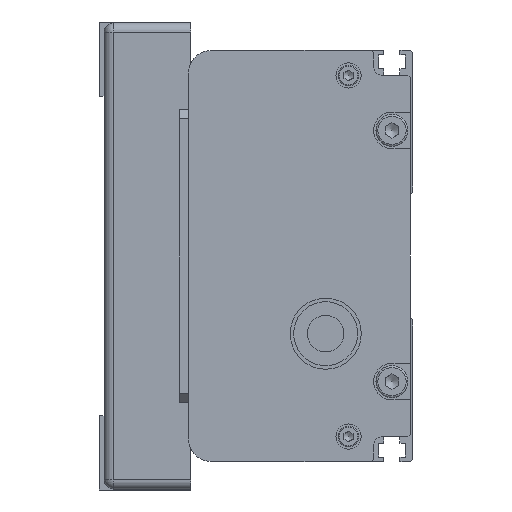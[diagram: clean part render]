
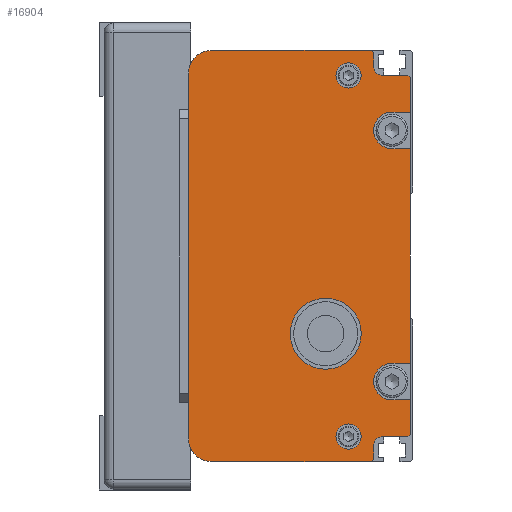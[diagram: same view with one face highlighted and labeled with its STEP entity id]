
A CAD part, left-side view. The second image highlights one B-rep face of the part: STEP entity #16904.
In plain terms, the highlighted planar face has unit normal (-1, 0, 0) as drawn and (0, 0, -1) by its records, which use the part's own axes.
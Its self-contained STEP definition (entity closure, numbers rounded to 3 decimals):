
#1072=FACE_BOUND('',#2462,.T.);
#1073=FACE_BOUND('',#2463,.T.);
#1074=FACE_BOUND('',#2464,.T.);
#1396=FACE_OUTER_BOUND('',#2461,.T.);
#2461=EDGE_LOOP('',(#11733,#11734,#11735,#11736,#11737,#11738,#11739,#11740,
#11741,#11742,#11743,#11744,#11745,#11746,#11747,#11748,#11749,#11750,#11751,
#11752,#11753,#11754,#11755,#11756));
#2462=EDGE_LOOP('',(#11757));
#2463=EDGE_LOOP('',(#11758));
#2464=EDGE_LOOP('',(#11759));
#3747=LINE('',#24477,#5245);
#3773=LINE('',#24544,#5271);
#3775=LINE('',#24549,#5273);
#3776=LINE('',#24551,#5274);
#3777=LINE('',#24554,#5275);
#3778=LINE('',#24556,#5276);
#3779=LINE('',#24558,#5277);
#3780=LINE('',#24562,#5278);
#3781=LINE('',#24564,#5279);
#3782=LINE('',#24566,#5280);
#3783=LINE('',#24570,#5281);
#3784=LINE('',#24572,#5282);
#3785=LINE('',#24574,#5283);
#3786=LINE('',#24576,#5284);
#3787=LINE('',#24580,#5285);
#3788=LINE('',#24582,#5286);
#3789=LINE('',#24583,#5287);
#3790=LINE('',#24584,#5288);
#5245=VECTOR('',#19880,80.);
#5271=VECTOR('',#19932,0.707);
#5273=VECTOR('',#19936,0.707);
#5274=VECTOR('',#19937,3.);
#5275=VECTOR('',#19940,5.5);
#5276=VECTOR('',#19941,7.5);
#5277=VECTOR('',#19942,4.);
#5278=VECTOR('',#19945,4.);
#5279=VECTOR('',#19946,47.);
#5280=VECTOR('',#19947,4.);
#5281=VECTOR('',#19950,4.);
#5282=VECTOR('',#19951,7.5);
#5283=VECTOR('',#19952,0.707);
#5284=VECTOR('',#19953,5.5);
#5285=VECTOR('',#19956,3.);
#5286=VECTOR('',#19957,0.707);
#5287=VECTOR('',#19958,35.);
#5288=VECTOR('',#19959,35.);
#6626=CIRCLE('',#18050,5.);
#6629=CIRCLE('',#18057,5.);
#6631=CIRCLE('',#18063,2.);
#6632=CIRCLE('',#18064,4.);
#6633=CIRCLE('',#18065,4.);
#6634=CIRCLE('',#18066,2.);
#6635=CIRCLE('',#18067,7.769);
#6636=CIRCLE('',#18068,2.75);
#6637=CIRCLE('',#18069,2.75);
#7225=VERTEX_POINT('',#24474);
#7226=VERTEX_POINT('',#24476);
#7227=VERTEX_POINT('',#24480);
#7230=VERTEX_POINT('',#24491);
#7253=VERTEX_POINT('',#24541);
#7254=VERTEX_POINT('',#24543);
#7255=VERTEX_POINT('',#24547);
#7256=VERTEX_POINT('',#24548);
#7257=VERTEX_POINT('',#24550);
#7258=VERTEX_POINT('',#24552);
#7259=VERTEX_POINT('',#24555);
#7260=VERTEX_POINT('',#24557);
#7261=VERTEX_POINT('',#24559);
#7262=VERTEX_POINT('',#24561);
#7263=VERTEX_POINT('',#24563);
#7264=VERTEX_POINT('',#24565);
#7265=VERTEX_POINT('',#24567);
#7266=VERTEX_POINT('',#24569);
#7267=VERTEX_POINT('',#24571);
#7268=VERTEX_POINT('',#24573);
#7269=VERTEX_POINT('',#24575);
#7270=VERTEX_POINT('',#24577);
#7271=VERTEX_POINT('',#24579);
#7272=VERTEX_POINT('',#24581);
#7273=VERTEX_POINT('',#24585);
#7274=VERTEX_POINT('',#24587);
#7275=VERTEX_POINT('',#24589);
#9003=EDGE_CURVE('',#7225,#7226,#3747,.T.);
#9005=EDGE_CURVE('',#7226,#7227,#6626,.T.);
#9010=EDGE_CURVE('',#7230,#7225,#6629,.T.);
#9034=EDGE_CURVE('',#7253,#7254,#3773,.T.);
#9036=EDGE_CURVE('',#7255,#7256,#3775,.T.);
#9037=EDGE_CURVE('',#7255,#7257,#3776,.T.);
#9038=EDGE_CURVE('',#7257,#7258,#6631,.T.);
#9039=EDGE_CURVE('',#7258,#7254,#3777,.T.);
#9040=EDGE_CURVE('',#7259,#7253,#3778,.T.);
#9041=EDGE_CURVE('',#7259,#7260,#3779,.T.);
#9042=EDGE_CURVE('',#7260,#7261,#6632,.T.);
#9043=EDGE_CURVE('',#7261,#7262,#3780,.T.);
#9044=EDGE_CURVE('',#7263,#7262,#3781,.T.);
#9045=EDGE_CURVE('',#7263,#7264,#3782,.T.);
#9046=EDGE_CURVE('',#7264,#7265,#6633,.T.);
#9047=EDGE_CURVE('',#7265,#7266,#3783,.T.);
#9048=EDGE_CURVE('',#7267,#7266,#3784,.T.);
#9049=EDGE_CURVE('',#7268,#7267,#3785,.T.);
#9050=EDGE_CURVE('',#7268,#7269,#3786,.T.);
#9051=EDGE_CURVE('',#7269,#7270,#6634,.T.);
#9052=EDGE_CURVE('',#7270,#7271,#3787,.T.);
#9053=EDGE_CURVE('',#7272,#7271,#3788,.T.);
#9054=EDGE_CURVE('',#7227,#7272,#3789,.T.);
#9055=EDGE_CURVE('',#7256,#7230,#3790,.T.);
#9056=EDGE_CURVE('',#7273,#7273,#6635,.T.);
#9057=EDGE_CURVE('',#7274,#7274,#6636,.T.);
#9058=EDGE_CURVE('',#7275,#7275,#6637,.T.);
#11733=ORIENTED_EDGE('',*,*,#9036,.F.);
#11734=ORIENTED_EDGE('',*,*,#9037,.T.);
#11735=ORIENTED_EDGE('',*,*,#9038,.T.);
#11736=ORIENTED_EDGE('',*,*,#9039,.T.);
#11737=ORIENTED_EDGE('',*,*,#9034,.F.);
#11738=ORIENTED_EDGE('',*,*,#9040,.F.);
#11739=ORIENTED_EDGE('',*,*,#9041,.T.);
#11740=ORIENTED_EDGE('',*,*,#9042,.T.);
#11741=ORIENTED_EDGE('',*,*,#9043,.T.);
#11742=ORIENTED_EDGE('',*,*,#9044,.F.);
#11743=ORIENTED_EDGE('',*,*,#9045,.T.);
#11744=ORIENTED_EDGE('',*,*,#9046,.T.);
#11745=ORIENTED_EDGE('',*,*,#9047,.T.);
#11746=ORIENTED_EDGE('',*,*,#9048,.F.);
#11747=ORIENTED_EDGE('',*,*,#9049,.F.);
#11748=ORIENTED_EDGE('',*,*,#9050,.T.);
#11749=ORIENTED_EDGE('',*,*,#9051,.T.);
#11750=ORIENTED_EDGE('',*,*,#9052,.T.);
#11751=ORIENTED_EDGE('',*,*,#9053,.F.);
#11752=ORIENTED_EDGE('',*,*,#9054,.F.);
#11753=ORIENTED_EDGE('',*,*,#9005,.F.);
#11754=ORIENTED_EDGE('',*,*,#9003,.F.);
#11755=ORIENTED_EDGE('',*,*,#9010,.F.);
#11756=ORIENTED_EDGE('',*,*,#9055,.F.);
#11757=ORIENTED_EDGE('',*,*,#9056,.T.);
#11758=ORIENTED_EDGE('',*,*,#9057,.T.);
#11759=ORIENTED_EDGE('',*,*,#9058,.T.);
#16296=PLANE('',#18062);
#16904=ADVANCED_FACE('',(#1396,#1072,#1073,#1074),#16296,.F.);
#18050=AXIS2_PLACEMENT_3D('',#24481,#19884,#19885);
#18057=AXIS2_PLACEMENT_3D('',#24493,#19900,#19901);
#18062=AXIS2_PLACEMENT_3D('',#24546,#19934,#19935);
#18063=AXIS2_PLACEMENT_3D('',#24553,#19938,#19939);
#18064=AXIS2_PLACEMENT_3D('',#24560,#19943,#19944);
#18065=AXIS2_PLACEMENT_3D('',#24568,#19948,#19949);
#18066=AXIS2_PLACEMENT_3D('',#24578,#19954,#19955);
#18067=AXIS2_PLACEMENT_3D('',#24586,#19960,#19961);
#18068=AXIS2_PLACEMENT_3D('',#24588,#19962,#19963);
#18069=AXIS2_PLACEMENT_3D('',#24590,#19964,#19965);
#19880=DIRECTION('',(-1.,0.,0.));
#19884=DIRECTION('center_axis',(0.,0.,1.));
#19885=DIRECTION('ref_axis',(0.,1.,0.));
#19900=DIRECTION('center_axis',(0.,0.,1.));
#19901=DIRECTION('ref_axis',(1.,0.,0.));
#19932=DIRECTION('',(0.707,0.707,0.));
#19934=DIRECTION('center_axis',(0.,0.,1.));
#19935=DIRECTION('ref_axis',(1.,0.,0.));
#19936=DIRECTION('',(0.707,0.707,0.));
#19937=DIRECTION('',(-1.,0.,0.));
#19938=DIRECTION('center_axis',(0.,0.,1.));
#19939=DIRECTION('ref_axis',(0.,1.,0.));
#19940=DIRECTION('',(0.,-1.,0.));
#19941=DIRECTION('',(1.,0.,0.));
#19942=DIRECTION('',(0.,1.,0.));
#19943=DIRECTION('center_axis',(0.,0.,1.));
#19944=DIRECTION('ref_axis',(-1.,0.,0.));
#19945=DIRECTION('',(0.,-1.,0.));
#19946=DIRECTION('',(1.,0.,0.));
#19947=DIRECTION('',(0.,1.,0.));
#19948=DIRECTION('center_axis',(0.,0.,1.));
#19949=DIRECTION('ref_axis',(-1.,0.,0.));
#19950=DIRECTION('',(0.,-1.,0.));
#19951=DIRECTION('',(1.,0.,0.));
#19952=DIRECTION('',(0.707,-0.707,0.));
#19953=DIRECTION('',(0.,1.,0.));
#19954=DIRECTION('center_axis',(0.,0.,1.));
#19955=DIRECTION('ref_axis',(-1.,0.,0.));
#19956=DIRECTION('',(-1.,0.,0.));
#19957=DIRECTION('',(0.707,-0.707,0.));
#19958=DIRECTION('',(0.,-1.,0.));
#19959=DIRECTION('',(0.,1.,0.));
#19960=DIRECTION('center_axis',(0.,0.,1.));
#19961=DIRECTION('ref_axis',(0.766,-0.643,0.));
#19962=DIRECTION('center_axis',(0.,0.,1.));
#19963=DIRECTION('ref_axis',(-1.,0.,0.));
#19964=DIRECTION('center_axis',(0.,0.,1.));
#19965=DIRECTION('ref_axis',(-1.,0.,0.));
#24474=CARTESIAN_POINT('',(37.988,51.846,-347.249));
#24476=CARTESIAN_POINT('',(-42.012,51.846,-347.249));
#24477=CARTESIAN_POINT('',(37.988,51.846,-347.249));
#24480=CARTESIAN_POINT('',(-47.012,46.846,-347.249));
#24481=CARTESIAN_POINT('Origin',(-42.012,46.846,-347.249));
#24491=CARTESIAN_POINT('',(42.988,46.846,-347.249));
#24493=CARTESIAN_POINT('Origin',(37.988,46.846,-347.249));
#24541=CARTESIAN_POINT('',(36.988,3.346,-347.249));
#24543=CARTESIAN_POINT('',(37.488,3.846,-347.249));
#24544=CARTESIAN_POINT('',(36.988,3.346,-347.249));
#24546=CARTESIAN_POINT('Origin',(-2.012,27.249,-347.249));
#24547=CARTESIAN_POINT('',(42.488,11.346,-347.249));
#24548=CARTESIAN_POINT('',(42.988,11.846,-347.249));
#24549=CARTESIAN_POINT('',(42.488,11.346,-347.249));
#24550=CARTESIAN_POINT('',(39.488,11.346,-347.249));
#24551=CARTESIAN_POINT('',(42.488,11.346,-347.249));
#24552=CARTESIAN_POINT('',(37.488,9.346,-347.249));
#24553=CARTESIAN_POINT('Origin',(39.488,9.346,-347.249));
#24554=CARTESIAN_POINT('',(37.488,9.346,-347.249));
#24555=CARTESIAN_POINT('',(29.488,3.346,-347.249));
#24556=CARTESIAN_POINT('',(29.488,3.346,-347.249));
#24557=CARTESIAN_POINT('',(29.488,7.346,-347.249));
#24558=CARTESIAN_POINT('',(29.488,3.346,-347.249));
#24559=CARTESIAN_POINT('',(21.488,7.346,-347.249));
#24560=CARTESIAN_POINT('Origin',(25.488,7.346,-347.249));
#24561=CARTESIAN_POINT('',(21.488,3.346,-347.249));
#24562=CARTESIAN_POINT('',(21.488,7.346,-347.249));
#24563=CARTESIAN_POINT('',(-25.512,3.346,-347.249));
#24564=CARTESIAN_POINT('',(-25.512,3.346,-347.249));
#24565=CARTESIAN_POINT('',(-25.512,7.346,-347.249));
#24566=CARTESIAN_POINT('',(-25.512,3.346,-347.249));
#24567=CARTESIAN_POINT('',(-33.512,7.346,-347.249));
#24568=CARTESIAN_POINT('Origin',(-29.512,7.346,-347.249));
#24569=CARTESIAN_POINT('',(-33.512,3.346,-347.249));
#24570=CARTESIAN_POINT('',(-33.512,7.346,-347.249));
#24571=CARTESIAN_POINT('',(-41.012,3.346,-347.249));
#24572=CARTESIAN_POINT('',(-41.012,3.346,-347.249));
#24573=CARTESIAN_POINT('',(-41.512,3.846,-347.249));
#24574=CARTESIAN_POINT('',(-41.512,3.846,-347.249));
#24575=CARTESIAN_POINT('',(-41.512,9.346,-347.249));
#24576=CARTESIAN_POINT('',(-41.512,3.846,-347.249));
#24577=CARTESIAN_POINT('',(-43.512,11.346,-347.249));
#24578=CARTESIAN_POINT('Origin',(-43.512,9.346,-347.249));
#24579=CARTESIAN_POINT('',(-46.512,11.346,-347.249));
#24580=CARTESIAN_POINT('',(-43.512,11.346,-347.249));
#24581=CARTESIAN_POINT('',(-47.012,11.846,-347.249));
#24582=CARTESIAN_POINT('',(-47.012,11.846,-347.249));
#24583=CARTESIAN_POINT('',(-47.012,46.846,-347.249));
#24584=CARTESIAN_POINT('',(42.988,11.846,-347.249));
#24585=CARTESIAN_POINT('',(20.939,16.853,-347.249));
#24586=CARTESIAN_POINT('Origin',(14.988,21.846,-347.249));
#24587=CARTESIAN_POINT('',(34.738,16.846,-347.249));
#24588=CARTESIAN_POINT('Origin',(37.488,16.846,-347.249));
#24589=CARTESIAN_POINT('',(-44.262,16.846,-347.249));
#24590=CARTESIAN_POINT('Origin',(-41.512,16.846,-347.249));
